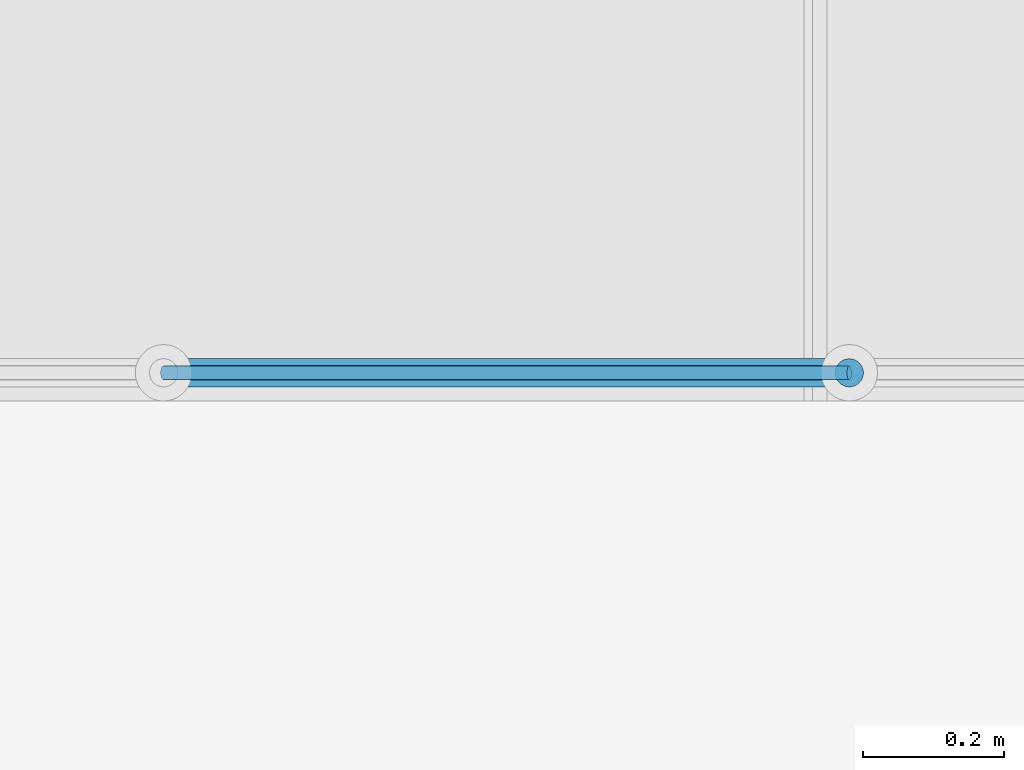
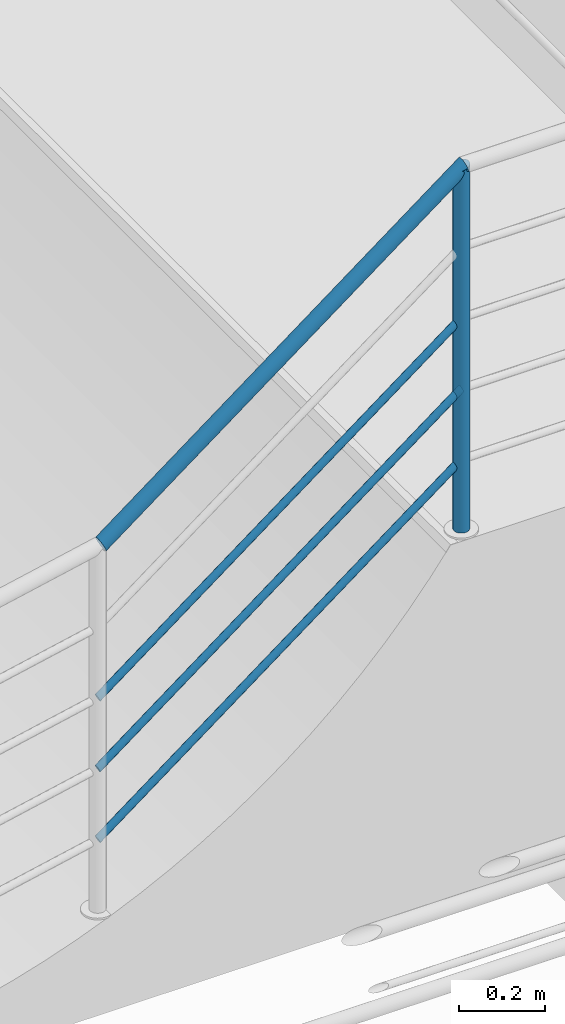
# One storey, part 43 of 237: 6 building element parts, 1 element without a shape of its own.
"""IFC2X3 building model written with IfcOpenShell, lengths in millimetres."""

from ifc_helpers import new_model, entity, si_unit, converted_unit, derived_unit, money_unit, direction, frame, origin_with_axes, place, context, subcontext, project, spatial, faceted_brep, material, type_object, element, aggregate, save


model = new_model("IFC2X3")

# Units and contexts
model_context = context("Model", 3, precision=0.01, world=origin_with_axes(), true_north=direction((0.0, 1.0)))
body_context = subcontext(model_context, "Body", "Model", "MODEL_VIEW")
ifc_project = project(units=[si_unit("LENGTHUNIT", "METRE", prefix="MILLI"), si_unit("AREAUNIT", "SQUARE_METRE"), si_unit("VOLUMEUNIT", "CUBIC_METRE"), converted_unit("PLANEANGLEUNIT", "DEGREE", entity("IfcPlaneAngleMeasure", 0.0174532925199), si_unit("PLANEANGLEUNIT", "RADIAN"), dimensions=[0, 0, 0, 0, 0, 0, 0]), money_unit("USD"), converted_unit("TIMEUNIT", "Year", entity("IfcTimeMeasure", 31556926.0), si_unit("TIMEUNIT", "SECOND"), dimensions=[0, 0, 1, 0, 0, 0, 0]), si_unit("MASSUNIT", "GRAM", prefix="KILO"), si_unit("THERMODYNAMICTEMPERATUREUNIT", "DEGREE_CELSIUS"), si_unit("LUMINOUSINTENSITYUNIT", "LUMEN"), si_unit("ENERGYUNIT", "JOULE", prefix="MEGA"), derived_unit("THERMALCONDUCTANCEUNIT", [(si_unit("POWERUNIT", "WATT"), 1), (si_unit("LENGTHUNIT", "METRE"), -1), (si_unit("THERMODYNAMICTEMPERATUREUNIT", "KELVIN"), -1)]), derived_unit("SPECIFICHEATCAPACITYUNIT", [(si_unit("ENERGYUNIT", "JOULE"), 1), (si_unit("MASSUNIT", "GRAM", prefix="KILO"), -1), (si_unit("THERMODYNAMICTEMPERATUREUNIT", "KELVIN"), -1)]), derived_unit("MASSDENSITYUNIT", [(si_unit("MASSUNIT", "GRAM", prefix="KILO"), 1), (si_unit("VOLUMEUNIT", "CUBIC_METRE"), -1)])], contexts=[model_context])

# Site, building, storey
site_placement = place(None, origin_with_axes())
site = spatial("IfcSite", under=ifc_project, at=site_placement, Name="Local", CompositionType="ELEMENT")
building_placement = place(site_placement, origin_with_axes())
building = spatial("IfcBuilding", under=site, at=building_placement, Name="Construção", CompositionType="ELEMENT")
storey_placement = place(building_placement, origin_with_axes())
storey = spatial("IfcBuildingStorey", under=building, at=storey_placement, Name="Pavimento Térreo", CompositionType="ELEMENT", Elevation=0.0)

# Railing, building element parts
railing_type = type_object("IfcRailingType", Name="Tipo de Guarda-Corpo", PredefinedType="NOTDEFINED")
railing_placement = place(storey_placement, frame((61612.4440926, 28006.4497128, -1265.99547451), z_axis=(0.0, 0.0, 1.0), x_axis=(-1.0, 0.0, 0.0)))
railing = element("IfcRailing", 1, at=railing_placement, inside=storey, type_object=railing_type, Name="Guarda-Corpo - 001", PredefinedType="NOTDEFINED")
ifc_material = material(Name="Aço - Inoxidável")
building_element_part_1_placement = place(railing_placement, origin_with_axes())
building_element_part_1 = element("IfcBuildingElementPart", 2, at=building_element_part_1_placement, material=ifc_material, Name="Aço - Inoxidável", context=body_context, shape_type="Brep", body=[
    faceted_brep([(-1798.29813374, -58.7903860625, 913.887277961), (-1801.77109729, -58.4865411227, 913.887277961), (-1801.77109729, -58.4865411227, 1938.88727796), (-1798.29813374, -58.7903860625, 1937.72349007), (-1805.24406084, -58.7903860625, 913.887277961), (-1794.93069442, -59.692688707, 913.887277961), (-1791.77109729, -61.166033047, 913.887277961), (-1788.9153451, -63.1656522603, 913.887277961), (-1786.45020843, -65.630788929, 913.887277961), (-1784.45058922, -68.4865411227, 913.887277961), (-1782.97724488, -71.6461382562, 913.887277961), (-1782.07494223, -75.0135775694, 913.887277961), (-1781.77109729, -78.4865411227, 913.887277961), (-1782.07494223, -81.9595046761, 913.887277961), (-1782.97724488, -85.3269439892, 913.887277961), (-1784.45058922, -88.4865411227, 913.887277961), (-1786.45020843, -91.3422933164, 913.887277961), (-1788.9153451, -93.8074299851, 913.887277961), (-1791.77109729, -95.8070491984, 913.887277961), (-1794.93069442, -97.2803935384, 913.887277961), (-1798.29813374, -98.182696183, 913.887277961), (-1801.77109729, -98.4865411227, 913.887277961), (-1805.24406084, -98.182696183, 913.887277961), (-1808.61150016, -97.2803935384, 913.887277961), (-1811.77109729, -95.8070491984, 913.887277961), (-1814.62684948, -93.8074299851, 913.887277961), (-1817.09198615, -91.3422933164, 913.887277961), (-1819.09160537, -88.4865411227, 913.887277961), (-1820.56494971, -85.3269439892, 913.887277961), (-1821.46725235, -81.9595046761, 913.887277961), (-1821.77109729, -78.4865411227, 913.887277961), (-1821.46725235, -75.0135775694, 913.887277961), (-1820.56494971, -71.6461382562, 913.887277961), (-1819.09160537, -68.4865411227, 913.887277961), (-1817.09198615, -65.630788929, 913.887277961), (-1814.62684948, -63.1656522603, 913.887277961), (-1811.77109729, -61.166033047, 913.887277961), (-1808.61150016, -59.692688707, 913.887277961), (-1805.24406084, -58.7903860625, 1940.05106585), (-1782.07494223, -81.9595046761, 1932.28710885), (-1781.77109729, -78.4865411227, 1932.18529061), (-1782.07494223, -75.0135775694, 1932.28710885), (-1782.97724488, -71.6461382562, 1932.5894699), (-1784.45058922, -68.4865411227, 1933.08318666), (-1786.45020843, -65.630788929, 1933.75325779), (-1788.9153451, -63.1656522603, 1934.57932353), (-1791.77109729, -61.166033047, 1935.53628428), (-1794.93069442, -59.692688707, 1936.59506329), (-1808.61150016, -59.692688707, 1941.17949264), (-1811.77109729, -61.166033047, 1942.23827164), (-1814.62684948, -63.1656522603, 1943.19523239), (-1817.09198615, -65.630788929, 1944.02129813), (-1819.09160537, -68.4865411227, 1944.69136926), (-1820.56494971, -71.6461382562, 1945.18508602), (-1821.46725235, -75.0135775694, 1945.48744707), (-1821.77109729, -78.4865411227, 1945.58926531), (-1821.46725235, -81.9595046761, 1945.48744707), (-1820.56494971, -85.3269439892, 1945.18508602), (-1819.09160537, -88.4865411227, 1944.69136926), (-1817.09198615, -91.3422933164, 1944.02129813), (-1814.62684948, -93.8074299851, 1943.19523239), (-1811.77109729, -95.8070491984, 1942.23827164), (-1808.61150016, -97.2803935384, 1941.17949264), (-1805.24406084, -98.182696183, 1940.05106585), (-1801.77109729, -98.4865411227, 1938.88727796), (-1798.29813374, -98.182696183, 1937.72349007), (-1794.93069442, -97.2803935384, 1936.59506329), (-1791.77109729, -95.8070491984, 1935.53628428), (-1788.9153451, -93.8074299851, 1934.57932353), (-1786.45020843, -91.3422933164, 1933.75325779), (-1784.45058922, -88.4865411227, 1933.08318666), (-1782.97724488, -85.3269439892, 1932.5894699)], [[[0, 1, 2, 3]], [[4, 1, 0, 5, 6, 7, 8, 9, 10, 11, 12, 13, 14, 15, 16, 17, 18, 19, 20, 21, 22, 23, 24, 25, 26, 27, 28, 29, 30, 31, 32, 33, 34, 35, 36, 37]], [[1, 4, 38, 2]], [[39, 40, 41, 42, 43, 44, 45, 46, 47, 3, 2, 38, 48, 49, 50, 51, 52, 53, 54, 55, 56, 57, 58, 59, 60, 61, 62, 63, 64, 65, 66, 67, 68, 69, 70, 71]], [[5, 0, 3, 47]], [[6, 5, 47, 46]], [[7, 6, 46, 45]], [[8, 7, 45, 44]], [[9, 8, 44, 43]], [[10, 9, 43, 42]], [[11, 10, 42, 41]], [[12, 11, 41, 40]], [[13, 12, 40, 39]], [[14, 13, 39, 71]], [[15, 14, 71, 70]], [[16, 15, 70, 69]], [[17, 16, 69, 68]], [[18, 17, 68, 67]], [[19, 18, 67, 66]], [[20, 19, 66, 65]], [[21, 20, 65, 64]], [[22, 21, 64, 63]], [[23, 22, 63, 62]], [[24, 23, 62, 61]], [[25, 24, 61, 60]], [[26, 25, 60, 59]], [[27, 26, 59, 58]], [[28, 27, 58, 57]], [[29, 28, 57, 56]], [[30, 29, 56, 55]], [[31, 30, 55, 54]], [[32, 31, 54, 53]], [[33, 32, 53, 52]], [[34, 33, 52, 51]], [[35, 34, 51, 50]], [[36, 35, 50, 49]], [[37, 36, 49, 48]], [[4, 37, 48, 38]]]),
])
building_element_part_2_placement = place(railing_placement, origin_with_axes())
building_element_part_2 = element("IfcBuildingElementPart", 3, at=building_element_part_2_placement, material=ifc_material, Name="Aço - Inoxidável", context=body_context, shape_type="Brep", body=[
    faceted_brep([(-838.367449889, -98.4865411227, 1206.48060088), (-836.892776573, -98.182696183, 1209.71885333), (-1807.30929675, -98.182696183, 1942.36024151), (-1808.47308464, -98.4865411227, 1938.88727796), (-839.842123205, -98.182696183, 1203.24234843), (-841.271989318, -97.2803935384, 1200.10248864), (-842.61360247, -95.8070491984, 1197.15642456), (-843.826198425, -93.8074299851, 1194.49367086), (-844.872933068, -91.3422933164, 1192.19513397), (-845.722001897, -88.4865411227, 1190.33065375), (-846.347606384, -85.3269439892, 1188.95688151), (-846.730737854, -81.9595046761, 1188.11555862), (-846.859755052, -78.4865411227, 1187.83224824), (-846.730737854, -75.0135775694, 1188.11555862), (-846.347606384, -71.6461382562, 1188.95688151), (-845.722001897, -68.4865411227, 1190.33065375), (-844.872933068, -65.630788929, 1192.19513397), (-843.826198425, -63.1656522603, 1194.49367086), (-842.61360247, -61.166033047, 1197.15642456), (-841.271989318, -59.692688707, 1200.10248864), (-839.842123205, -58.7903860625, 1203.24234843), (-838.367449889, -58.4865411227, 1206.48060088), (-836.892776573, -58.7903860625, 1209.71885333), (-835.46291046, -59.692688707, 1212.85871313), (-834.121297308, -61.166033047, 1215.8047772), (-832.908701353, -63.1656522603, 1218.4675309), (-831.86196671, -65.630788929, 1220.7660678), (-831.012897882, -68.4865411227, 1222.63054801), (-830.387293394, -71.6461382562, 1224.00432025), (-830.004161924, -75.0135775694, 1224.84564315), (-829.875144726, -78.4865411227, 1225.12895352), (-830.004161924, -81.9595046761, 1224.84564315), (-830.387293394, -85.3269439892, 1224.00432025), (-831.012897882, -88.4865411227, 1222.63054801), (-831.86196671, -91.3422933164, 1220.7660678), (-832.908701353, -93.8074299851, 1218.4675309), (-834.121297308, -95.8070491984, 1215.8047772), (-835.46291046, -97.2803935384, 1212.85871313), (-1806.18086997, -97.2803935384, 1945.72768083), (-1805.12209097, -95.8070491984, 1948.88727796), (-1804.16513021, -93.8074299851, 1951.74303015), (-1803.33906447, -91.3422933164, 1954.20816682), (-1802.66899334, -88.4865411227, 1956.20778604), (-1802.17527658, -85.3269439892, 1957.68113038), (-1801.87291554, -81.9595046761, 1958.58343302), (-1801.77109729, -78.4865411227, 1958.88727796), (-1801.87291554, -75.0135775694, 1958.58343302), (-1802.17527658, -71.6461382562, 1957.68113038), (-1802.66899334, -68.4865411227, 1956.20778604), (-1803.33906447, -65.630788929, 1954.20816682), (-1804.16513021, -63.1656522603, 1951.74303015), (-1805.12209097, -61.166033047, 1948.88727796), (-1806.18086997, -59.692688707, 1945.72768083), (-1807.30929675, -58.7903860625, 1942.36024151), (-1808.47308464, -58.4865411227, 1938.88727796), (-1809.63687253, -58.7903860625, 1935.41431441), (-1810.76529932, -59.692688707, 1932.04687509), (-1811.82407832, -61.166033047, 1928.88727796), (-1812.78103908, -63.1656522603, 1926.03152577), (-1813.60710481, -65.630788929, 1923.5663891), (-1814.27717595, -68.4865411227, 1921.56676988), (-1814.7708927, -71.6461382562, 1920.09342554), (-1815.07325375, -75.0135775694, 1919.1911229), (-1815.175072, -78.4865411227, 1918.88727796), (-1815.07325375, -81.9595046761, 1919.1911229), (-1814.7708927, -85.3269439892, 1920.09342554), (-1814.27717595, -88.4865411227, 1921.56676988), (-1813.60710481, -91.3422933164, 1923.5663891), (-1812.78103908, -93.8074299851, 1926.03152577), (-1811.82407832, -95.8070491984, 1928.88727796), (-1810.76529932, -97.2803935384, 1932.04687509), (-1809.63687253, -98.182696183, 1935.41431441)], [[[0, 1, 2, 3]], [[0, 4, 5, 6, 7, 8, 9, 10, 11, 12, 13, 14, 15, 16, 17, 18, 19, 20, 21, 22, 23, 24, 25, 26, 27, 28, 29, 30, 31, 32, 33, 34, 35, 36, 37, 1]], [[1, 37, 38, 2]], [[3, 2, 38, 39, 40, 41, 42, 43, 44, 45, 46, 47, 48, 49, 50, 51, 52, 53, 54, 55, 56, 57, 58, 59, 60, 61, 62, 63, 64, 65, 66, 67, 68, 69, 70, 71]], [[4, 0, 3, 71]], [[5, 4, 71, 70]], [[6, 5, 70, 69]], [[7, 6, 69, 68]], [[8, 7, 68, 67]], [[9, 8, 67, 66]], [[10, 9, 66, 65]], [[11, 10, 65, 64]], [[12, 11, 64, 63]], [[13, 12, 63, 62]], [[14, 13, 62, 61]], [[15, 14, 61, 60]], [[16, 15, 60, 59]], [[17, 16, 59, 58]], [[18, 17, 58, 57]], [[19, 18, 57, 56]], [[20, 19, 56, 55]], [[21, 20, 55, 54]], [[22, 21, 54, 53]], [[23, 22, 53, 52]], [[24, 23, 52, 51]], [[25, 24, 51, 50]], [[26, 25, 50, 49]], [[27, 26, 49, 48]], [[28, 27, 48, 47]], [[29, 28, 47, 46]], [[30, 29, 46, 45]], [[31, 30, 45, 44]], [[32, 31, 44, 43]], [[33, 32, 43, 42]], [[34, 33, 42, 41]], [[35, 34, 41, 40]], [[36, 35, 40, 39]], [[37, 36, 39, 38]]]),
])
building_element_part_3_placement = place(railing_placement, origin_with_axes())
building_element_part_3 = element("IfcBuildingElementPart", 4, at=building_element_part_3_placement, material=ifc_material, Name="Aço - Inoxidável", context=body_context, shape_type="Brep", body=[
    faceted_brep([(-829.875144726, -88.4865411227, 375.128953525), (-829.137808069, -88.3346186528, 376.748079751), (-1801.18920335, -88.3346186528, 1110.62375974), (-1801.77109729, -88.4865411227, 1108.88727796), (-830.612481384, -88.3346186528, 373.509827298), (-831.327414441, -87.8834673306, 371.939897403), (-831.998221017, -87.1467951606, 370.466865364), (-832.604518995, -86.1469855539, 369.135488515), (-833.127886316, -84.9144172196, 367.986220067), (-833.55242073, -83.4865411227, 367.053979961), (-833.865222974, -81.906742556, 366.367093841), (-834.056788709, -80.2230228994, 365.946432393), (-834.121297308, -78.4865411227, 365.804777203), (-834.056788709, -76.7500593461, 365.946432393), (-833.865222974, -75.0663396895, 366.367093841), (-833.55242073, -73.4865411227, 367.053979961), (-833.127886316, -72.0586650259, 367.986220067), (-832.604518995, -70.8260966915, 369.135488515), (-831.998221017, -69.8262870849, 370.466865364), (-831.327414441, -69.0896149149, 371.939897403), (-830.612481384, -68.6384635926, 373.509827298), (-829.875144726, -68.4865411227, 375.128953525), (-829.137808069, -68.6384635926, 376.748079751), (-828.422875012, -69.0896149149, 378.318009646), (-827.752068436, -69.8262870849, 379.791041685), (-827.145770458, -70.8260966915, 381.122418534), (-826.622403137, -72.0586650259, 382.271686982), (-826.197868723, -73.4865411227, 383.203927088), (-825.885066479, -75.0663396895, 383.890813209), (-825.693500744, -76.7500593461, 384.311474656), (-825.628992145, -78.4865411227, 384.453129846), (-825.693500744, -80.2230228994, 384.311474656), (-825.885066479, -81.906742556, 383.890813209), (-826.197868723, -83.4865411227, 383.203927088), (-826.622403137, -84.9144172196, 382.271686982), (-827.145770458, -86.1469855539, 381.122418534), (-827.752068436, -87.1467951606, 379.791041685), (-828.422875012, -87.8834673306, 378.318009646), (-1800.62498995, -87.8834673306, 1112.30747939), (-1800.09560045, -87.1467951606, 1113.88727796), (-1799.61712008, -86.1469855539, 1115.31515406), (-1799.20408721, -84.9144172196, 1116.54772239), (-1798.86905164, -83.4865411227, 1117.547532), (-1798.62219326, -81.906742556, 1118.28420417), (-1798.47101274, -80.2230228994, 1118.73535549), (-1798.42010361, -78.4865411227, 1118.88727796), (-1798.47101274, -76.7500593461, 1118.73535549), (-1798.62219326, -75.0663396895, 1118.28420417), (-1798.86905164, -73.4865411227, 1117.547532), (-1799.20408721, -72.0586650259, 1116.54772239), (-1799.61712008, -70.8260966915, 1115.31515406), (-1800.09560045, -69.8262870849, 1113.88727796), (-1800.62498995, -69.0896149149, 1112.30747939), (-1801.18920335, -68.6384635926, 1110.62375974), (-1801.77109729, -68.4865411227, 1108.88727796), (-1802.35299124, -68.6384635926, 1107.15079618), (-1802.91720463, -69.0896149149, 1105.46707653), (-1803.44659413, -69.8262870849, 1103.88727796), (-1803.92507451, -70.8260966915, 1102.45940186), (-1804.33810738, -72.0586650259, 1101.22683353), (-1804.67314294, -73.4865411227, 1100.22702392), (-1804.92000132, -75.0663396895, 1099.49035175), (-1805.07118184, -76.7500593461, 1099.03920043), (-1805.12209097, -78.4865411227, 1098.88727796), (-1805.07118184, -80.2230228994, 1099.03920043), (-1804.92000132, -81.906742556, 1099.49035175), (-1804.67314294, -83.4865411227, 1100.22702392), (-1804.33810738, -84.9144172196, 1101.22683353), (-1803.92507451, -86.1469855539, 1102.45940186), (-1803.44659413, -87.1467951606, 1103.88727796), (-1802.91720463, -87.8834673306, 1105.46707653), (-1802.35299124, -88.3346186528, 1107.15079618)], [[[0, 1, 2, 3]], [[0, 4, 5, 6, 7, 8, 9, 10, 11, 12, 13, 14, 15, 16, 17, 18, 19, 20, 21, 22, 23, 24, 25, 26, 27, 28, 29, 30, 31, 32, 33, 34, 35, 36, 37, 1]], [[1, 37, 38, 2]], [[3, 2, 38, 39, 40, 41, 42, 43, 44, 45, 46, 47, 48, 49, 50, 51, 52, 53, 54, 55, 56, 57, 58, 59, 60, 61, 62, 63, 64, 65, 66, 67, 68, 69, 70, 71]], [[4, 0, 3, 71]], [[5, 4, 71, 70]], [[6, 5, 70, 69]], [[7, 6, 69, 68]], [[8, 7, 68, 67]], [[9, 8, 67, 66]], [[10, 9, 66, 65]], [[11, 10, 65, 64]], [[12, 11, 64, 63]], [[13, 12, 63, 62]], [[14, 13, 62, 61]], [[15, 14, 61, 60]], [[16, 15, 60, 59]], [[17, 16, 59, 58]], [[18, 17, 58, 57]], [[19, 18, 57, 56]], [[20, 19, 56, 55]], [[21, 20, 55, 54]], [[22, 21, 54, 53]], [[23, 22, 53, 52]], [[24, 23, 52, 51]], [[25, 24, 51, 50]], [[26, 25, 50, 49]], [[27, 26, 49, 48]], [[28, 27, 48, 47]], [[29, 28, 47, 46]], [[30, 29, 46, 45]], [[31, 30, 45, 44]], [[32, 31, 44, 43]], [[33, 32, 43, 42]], [[34, 33, 42, 41]], [[35, 34, 41, 40]], [[36, 35, 40, 39]], [[37, 36, 39, 38]]]),
])
building_element_part_4_placement = place(railing_placement, origin_with_axes())
building_element_part_4 = element("IfcBuildingElementPart", 5, at=building_element_part_4_placement, material=ifc_material, Name="Aço - Inoxidável", context=body_context, shape_type="Brep", body=[
    faceted_brep([(-829.875144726, -88.4865411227, 575.128953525), (-829.137808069, -88.3346186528, 576.748079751), (-1801.18920335, -88.3346186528, 1310.62375974), (-1801.77109729, -88.4865411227, 1308.88727796), (-830.612481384, -88.3346186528, 573.509827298), (-831.327414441, -87.8834673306, 571.939897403), (-831.998221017, -87.1467951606, 570.466865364), (-832.604518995, -86.1469855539, 569.135488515), (-833.127886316, -84.9144172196, 567.986220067), (-833.55242073, -83.4865411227, 567.053979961), (-833.865222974, -81.906742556, 566.367093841), (-834.056788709, -80.2230228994, 565.946432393), (-834.121297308, -78.4865411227, 565.804777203), (-834.056788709, -76.7500593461, 565.946432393), (-833.865222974, -75.0663396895, 566.367093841), (-833.55242073, -73.4865411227, 567.053979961), (-833.127886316, -72.0586650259, 567.986220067), (-832.604518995, -70.8260966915, 569.135488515), (-831.998221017, -69.8262870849, 570.466865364), (-831.327414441, -69.0896149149, 571.939897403), (-830.612481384, -68.6384635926, 573.509827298), (-829.875144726, -68.4865411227, 575.128953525), (-829.137808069, -68.6384635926, 576.748079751), (-828.422875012, -69.0896149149, 578.318009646), (-827.752068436, -69.8262870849, 579.791041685), (-827.145770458, -70.8260966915, 581.122418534), (-826.622403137, -72.0586650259, 582.271686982), (-826.197868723, -73.4865411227, 583.203927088), (-825.885066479, -75.0663396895, 583.890813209), (-825.693500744, -76.7500593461, 584.311474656), (-825.628992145, -78.4865411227, 584.453129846), (-825.693500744, -80.2230228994, 584.311474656), (-825.885066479, -81.906742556, 583.890813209), (-826.197868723, -83.4865411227, 583.203927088), (-826.622403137, -84.9144172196, 582.271686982), (-827.145770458, -86.1469855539, 581.122418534), (-827.752068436, -87.1467951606, 579.791041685), (-828.422875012, -87.8834673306, 578.318009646), (-1800.62498995, -87.8834673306, 1312.30747939), (-1800.09560045, -87.1467951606, 1313.88727796), (-1799.61712008, -86.1469855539, 1315.31515406), (-1799.20408721, -84.9144172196, 1316.54772239), (-1798.86905164, -83.4865411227, 1317.547532), (-1798.62219326, -81.906742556, 1318.28420417), (-1798.47101274, -80.2230228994, 1318.73535549), (-1798.42010361, -78.4865411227, 1318.88727796), (-1798.47101274, -76.7500593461, 1318.73535549), (-1798.62219326, -75.0663396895, 1318.28420417), (-1798.86905164, -73.4865411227, 1317.547532), (-1799.20408721, -72.0586650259, 1316.54772239), (-1799.61712008, -70.8260966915, 1315.31515406), (-1800.09560045, -69.8262870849, 1313.88727796), (-1800.62498995, -69.0896149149, 1312.30747939), (-1801.18920335, -68.6384635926, 1310.62375974), (-1801.77109729, -68.4865411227, 1308.88727796), (-1802.35299124, -68.6384635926, 1307.15079618), (-1802.91720463, -69.0896149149, 1305.46707653), (-1803.44659413, -69.8262870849, 1303.88727796), (-1803.92507451, -70.8260966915, 1302.45940186), (-1804.33810738, -72.0586650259, 1301.22683353), (-1804.67314294, -73.4865411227, 1300.22702392), (-1804.92000132, -75.0663396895, 1299.49035175), (-1805.07118184, -76.7500593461, 1299.03920043), (-1805.12209097, -78.4865411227, 1298.88727796), (-1805.07118184, -80.2230228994, 1299.03920043), (-1804.92000132, -81.906742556, 1299.49035175), (-1804.67314294, -83.4865411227, 1300.22702392), (-1804.33810738, -84.9144172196, 1301.22683353), (-1803.92507451, -86.1469855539, 1302.45940186), (-1803.44659413, -87.1467951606, 1303.88727796), (-1802.91720463, -87.8834673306, 1305.46707653), (-1802.35299124, -88.3346186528, 1307.15079618)], [[[0, 1, 2, 3]], [[0, 4, 5, 6, 7, 8, 9, 10, 11, 12, 13, 14, 15, 16, 17, 18, 19, 20, 21, 22, 23, 24, 25, 26, 27, 28, 29, 30, 31, 32, 33, 34, 35, 36, 37, 1]], [[1, 37, 38, 2]], [[3, 2, 38, 39, 40, 41, 42, 43, 44, 45, 46, 47, 48, 49, 50, 51, 52, 53, 54, 55, 56, 57, 58, 59, 60, 61, 62, 63, 64, 65, 66, 67, 68, 69, 70, 71]], [[4, 0, 3, 71]], [[5, 4, 71, 70]], [[6, 5, 70, 69]], [[7, 6, 69, 68]], [[8, 7, 68, 67]], [[9, 8, 67, 66]], [[10, 9, 66, 65]], [[11, 10, 65, 64]], [[12, 11, 64, 63]], [[13, 12, 63, 62]], [[14, 13, 62, 61]], [[15, 14, 61, 60]], [[16, 15, 60, 59]], [[17, 16, 59, 58]], [[18, 17, 58, 57]], [[19, 18, 57, 56]], [[20, 19, 56, 55]], [[21, 20, 55, 54]], [[22, 21, 54, 53]], [[23, 22, 53, 52]], [[24, 23, 52, 51]], [[25, 24, 51, 50]], [[26, 25, 50, 49]], [[27, 26, 49, 48]], [[28, 27, 48, 47]], [[29, 28, 47, 46]], [[30, 29, 46, 45]], [[31, 30, 45, 44]], [[32, 31, 44, 43]], [[33, 32, 43, 42]], [[34, 33, 42, 41]], [[35, 34, 41, 40]], [[36, 35, 40, 39]], [[37, 36, 39, 38]]]),
])
building_element_part_5_placement = place(railing_placement, origin_with_axes())
building_element_part_5 = element("IfcBuildingElementPart", 6, at=building_element_part_5_placement, material=ifc_material, Name="Aço - Inoxidável", context=body_context, shape_type="Brep", body=[
    faceted_brep([(-829.875144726, -88.4865411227, 575.128953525), (-829.137808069, -88.3346186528, 576.748079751), (-1801.18920335, -88.3346186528, 1310.62375974), (-1801.77109729, -88.4865411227, 1308.88727796), (-830.612481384, -88.3346186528, 573.509827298), (-831.327414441, -87.8834673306, 571.939897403), (-831.998221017, -87.1467951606, 570.466865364), (-832.604518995, -86.1469855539, 569.135488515), (-833.127886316, -84.9144172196, 567.986220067), (-833.55242073, -83.4865411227, 567.053979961), (-833.865222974, -81.906742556, 566.367093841), (-834.056788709, -80.2230228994, 565.946432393), (-834.121297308, -78.4865411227, 565.804777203), (-834.056788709, -76.7500593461, 565.946432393), (-833.865222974, -75.0663396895, 566.367093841), (-833.55242073, -73.4865411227, 567.053979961), (-833.127886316, -72.0586650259, 567.986220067), (-832.604518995, -70.8260966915, 569.135488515), (-831.998221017, -69.8262870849, 570.466865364), (-831.327414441, -69.0896149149, 571.939897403), (-830.612481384, -68.6384635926, 573.509827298), (-829.875144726, -68.4865411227, 575.128953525), (-829.137808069, -68.6384635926, 576.748079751), (-828.422875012, -69.0896149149, 578.318009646), (-827.752068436, -69.8262870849, 579.791041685), (-827.145770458, -70.8260966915, 581.122418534), (-826.622403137, -72.0586650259, 582.271686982), (-826.197868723, -73.4865411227, 583.203927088), (-825.885066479, -75.0663396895, 583.890813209), (-825.693500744, -76.7500593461, 584.311474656), (-825.628992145, -78.4865411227, 584.453129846), (-825.693500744, -80.2230228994, 584.311474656), (-825.885066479, -81.906742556, 583.890813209), (-826.197868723, -83.4865411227, 583.203927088), (-826.622403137, -84.9144172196, 582.271686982), (-827.145770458, -86.1469855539, 581.122418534), (-827.752068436, -87.1467951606, 579.791041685), (-828.422875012, -87.8834673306, 578.318009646), (-1800.62498995, -87.8834673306, 1312.30747939), (-1800.09560045, -87.1467951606, 1313.88727796), (-1799.61712008, -86.1469855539, 1315.31515406), (-1799.20408721, -84.9144172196, 1316.54772239), (-1798.86905164, -83.4865411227, 1317.547532), (-1798.62219326, -81.906742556, 1318.28420417), (-1798.47101274, -80.2230228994, 1318.73535549), (-1798.42010361, -78.4865411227, 1318.88727796), (-1798.47101274, -76.7500593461, 1318.73535549), (-1798.62219326, -75.0663396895, 1318.28420417), (-1798.86905164, -73.4865411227, 1317.547532), (-1799.20408721, -72.0586650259, 1316.54772239), (-1799.61712008, -70.8260966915, 1315.31515406), (-1800.09560045, -69.8262870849, 1313.88727796), (-1800.62498995, -69.0896149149, 1312.30747939), (-1801.18920335, -68.6384635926, 1310.62375974), (-1801.77109729, -68.4865411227, 1308.88727796), (-1802.35299124, -68.6384635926, 1307.15079618), (-1802.91720463, -69.0896149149, 1305.46707653), (-1803.44659413, -69.8262870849, 1303.88727796), (-1803.92507451, -70.8260966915, 1302.45940186), (-1804.33810738, -72.0586650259, 1301.22683353), (-1804.67314294, -73.4865411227, 1300.22702392), (-1804.92000132, -75.0663396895, 1299.49035175), (-1805.07118184, -76.7500593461, 1299.03920043), (-1805.12209097, -78.4865411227, 1298.88727796), (-1805.07118184, -80.2230228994, 1299.03920043), (-1804.92000132, -81.906742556, 1299.49035175), (-1804.67314294, -83.4865411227, 1300.22702392), (-1804.33810738, -84.9144172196, 1301.22683353), (-1803.92507451, -86.1469855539, 1302.45940186), (-1803.44659413, -87.1467951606, 1303.88727796), (-1802.91720463, -87.8834673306, 1305.46707653), (-1802.35299124, -88.3346186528, 1307.15079618)], [[[0, 1, 2, 3]], [[0, 4, 5, 6, 7, 8, 9, 10, 11, 12, 13, 14, 15, 16, 17, 18, 19, 20, 21, 22, 23, 24, 25, 26, 27, 28, 29, 30, 31, 32, 33, 34, 35, 36, 37, 1]], [[1, 37, 38, 2]], [[3, 2, 38, 39, 40, 41, 42, 43, 44, 45, 46, 47, 48, 49, 50, 51, 52, 53, 54, 55, 56, 57, 58, 59, 60, 61, 62, 63, 64, 65, 66, 67, 68, 69, 70, 71]], [[4, 0, 3, 71]], [[5, 4, 71, 70]], [[6, 5, 70, 69]], [[7, 6, 69, 68]], [[8, 7, 68, 67]], [[9, 8, 67, 66]], [[10, 9, 66, 65]], [[11, 10, 65, 64]], [[12, 11, 64, 63]], [[13, 12, 63, 62]], [[14, 13, 62, 61]], [[15, 14, 61, 60]], [[16, 15, 60, 59]], [[17, 16, 59, 58]], [[18, 17, 58, 57]], [[19, 18, 57, 56]], [[20, 19, 56, 55]], [[21, 20, 55, 54]], [[22, 21, 54, 53]], [[23, 22, 53, 52]], [[24, 23, 52, 51]], [[25, 24, 51, 50]], [[26, 25, 50, 49]], [[27, 26, 49, 48]], [[28, 27, 48, 47]], [[29, 28, 47, 46]], [[30, 29, 46, 45]], [[31, 30, 45, 44]], [[32, 31, 44, 43]], [[33, 32, 43, 42]], [[34, 33, 42, 41]], [[35, 34, 41, 40]], [[36, 35, 40, 39]], [[37, 36, 39, 38]]]),
])
building_element_part_6_placement = place(railing_placement, origin_with_axes())
building_element_part_6 = element("IfcBuildingElementPart", 7, at=building_element_part_6_placement, material=ifc_material, Name="Aço - Inoxidável", context=body_context, shape_type="Brep", body=[
    faceted_brep([(-829.875144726, -88.4865411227, 775.128953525), (-829.137808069, -88.3346186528, 776.748079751), (-1801.18920335, -88.3346186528, 1510.62375974), (-1801.77109729, -88.4865411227, 1508.88727796), (-830.612481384, -88.3346186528, 773.509827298), (-831.327414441, -87.8834673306, 771.939897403), (-831.998221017, -87.1467951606, 770.466865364), (-832.604518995, -86.1469855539, 769.135488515), (-833.127886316, -84.9144172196, 767.986220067), (-833.55242073, -83.4865411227, 767.053979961), (-833.865222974, -81.906742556, 766.367093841), (-834.056788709, -80.2230228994, 765.946432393), (-834.121297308, -78.4865411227, 765.804777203), (-834.056788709, -76.7500593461, 765.946432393), (-833.865222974, -75.0663396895, 766.367093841), (-833.55242073, -73.4865411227, 767.053979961), (-833.127886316, -72.0586650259, 767.986220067), (-832.604518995, -70.8260966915, 769.135488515), (-831.998221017, -69.8262870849, 770.466865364), (-831.327414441, -69.0896149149, 771.939897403), (-830.612481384, -68.6384635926, 773.509827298), (-829.875144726, -68.4865411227, 775.128953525), (-829.137808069, -68.6384635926, 776.748079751), (-828.422875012, -69.0896149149, 778.318009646), (-827.752068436, -69.8262870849, 779.791041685), (-827.145770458, -70.8260966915, 781.122418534), (-826.622403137, -72.0586650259, 782.271686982), (-826.197868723, -73.4865411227, 783.203927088), (-825.885066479, -75.0663396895, 783.890813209), (-825.693500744, -76.7500593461, 784.311474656), (-825.628992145, -78.4865411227, 784.453129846), (-825.693500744, -80.2230228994, 784.311474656), (-825.885066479, -81.906742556, 783.890813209), (-826.197868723, -83.4865411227, 783.203927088), (-826.622403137, -84.9144172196, 782.271686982), (-827.145770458, -86.1469855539, 781.122418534), (-827.752068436, -87.1467951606, 779.791041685), (-828.422875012, -87.8834673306, 778.318009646), (-1800.62498995, -87.8834673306, 1512.30747939), (-1800.09560045, -87.1467951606, 1513.88727796), (-1799.61712008, -86.1469855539, 1515.31515406), (-1799.20408721, -84.9144172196, 1516.54772239), (-1798.86905164, -83.4865411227, 1517.547532), (-1798.62219326, -81.906742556, 1518.28420417), (-1798.47101274, -80.2230228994, 1518.73535549), (-1798.42010361, -78.4865411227, 1518.88727796), (-1798.47101274, -76.7500593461, 1518.73535549), (-1798.62219326, -75.0663396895, 1518.28420417), (-1798.86905164, -73.4865411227, 1517.547532), (-1799.20408721, -72.0586650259, 1516.54772239), (-1799.61712008, -70.8260966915, 1515.31515406), (-1800.09560045, -69.8262870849, 1513.88727796), (-1800.62498995, -69.0896149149, 1512.30747939), (-1801.18920335, -68.6384635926, 1510.62375974), (-1801.77109729, -68.4865411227, 1508.88727796), (-1802.35299124, -68.6384635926, 1507.15079618), (-1802.91720463, -69.0896149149, 1505.46707653), (-1803.44659413, -69.8262870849, 1503.88727796), (-1803.92507451, -70.8260966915, 1502.45940186), (-1804.33810738, -72.0586650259, 1501.22683353), (-1804.67314294, -73.4865411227, 1500.22702392), (-1804.92000132, -75.0663396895, 1499.49035175), (-1805.07118184, -76.7500593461, 1499.03920043), (-1805.12209097, -78.4865411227, 1498.88727796), (-1805.07118184, -80.2230228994, 1499.03920043), (-1804.92000132, -81.906742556, 1499.49035175), (-1804.67314294, -83.4865411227, 1500.22702392), (-1804.33810738, -84.9144172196, 1501.22683353), (-1803.92507451, -86.1469855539, 1502.45940186), (-1803.44659413, -87.1467951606, 1503.88727796), (-1802.91720463, -87.8834673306, 1505.46707653), (-1802.35299124, -88.3346186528, 1507.15079618)], [[[0, 1, 2, 3]], [[0, 4, 5, 6, 7, 8, 9, 10, 11, 12, 13, 14, 15, 16, 17, 18, 19, 20, 21, 22, 23, 24, 25, 26, 27, 28, 29, 30, 31, 32, 33, 34, 35, 36, 37, 1]], [[1, 37, 38, 2]], [[3, 2, 38, 39, 40, 41, 42, 43, 44, 45, 46, 47, 48, 49, 50, 51, 52, 53, 54, 55, 56, 57, 58, 59, 60, 61, 62, 63, 64, 65, 66, 67, 68, 69, 70, 71]], [[4, 0, 3, 71]], [[5, 4, 71, 70]], [[6, 5, 70, 69]], [[7, 6, 69, 68]], [[8, 7, 68, 67]], [[9, 8, 67, 66]], [[10, 9, 66, 65]], [[11, 10, 65, 64]], [[12, 11, 64, 63]], [[13, 12, 63, 62]], [[14, 13, 62, 61]], [[15, 14, 61, 60]], [[16, 15, 60, 59]], [[17, 16, 59, 58]], [[18, 17, 58, 57]], [[19, 18, 57, 56]], [[20, 19, 56, 55]], [[21, 20, 55, 54]], [[22, 21, 54, 53]], [[23, 22, 53, 52]], [[24, 23, 52, 51]], [[25, 24, 51, 50]], [[26, 25, 50, 49]], [[27, 26, 49, 48]], [[28, 27, 48, 47]], [[29, 28, 47, 46]], [[30, 29, 46, 45]], [[31, 30, 45, 44]], [[32, 31, 44, 43]], [[33, 32, 43, 42]], [[34, 33, 42, 41]], [[35, 34, 41, 40]], [[36, 35, 40, 39]], [[37, 36, 39, 38]]]),
])
aggregate(railing, [building_element_part_1, building_element_part_2, building_element_part_3, building_element_part_4, building_element_part_5, building_element_part_6])

save(model, "model.ifc")
